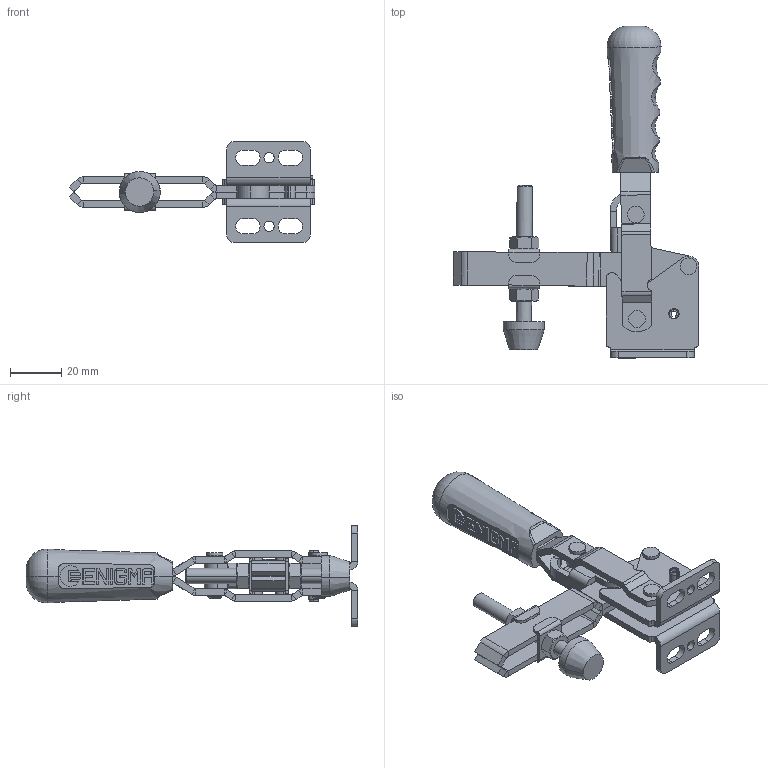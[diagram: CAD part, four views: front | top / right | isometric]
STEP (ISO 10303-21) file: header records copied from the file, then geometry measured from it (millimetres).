
FILE_DESCRIPTION (( 'STEP AP214' ), '1' );
FILE_NAME ('1102-Y.STEP', '2022-05-31T12:23:02', ( '' ), ( '' ), 'SwSTEP 2.0', 'SolidWorks 2020', '' );
FILE_SCHEMA (( 'AUTOMOTIVE_DESIGN' ));
Length unit declared in the file: millimetre
Products named in the file (18): 4x12_5_PERﾇﾝN; 1102 Y_GÖVDE_REV01_2022; C55_Yeni_Tutamak; Aynalama1102 BASKI KOLU_2022; M6 Aský; M6 Baský; 7x4x10_BURÇ; M6_BASKI_GRUBU^1102_Y_MONTAJ_REV01; Ø12,5xØ7,5x5_YÜZÜK; 4x20_YARIKLI_P嵱; 1102 MAFSAL_2022; 1102 BASKI KOLU_2022; 1102 HAREKET KOLU_2022; Aynalama1102 HAREKET KOLU_2022; M6 Somun; 1102-Y; 4x17_PERﾇﾝN; Aynalama1102 Y_GÖVDE_REV01_2022
Assembly tree (21 placements, depth 3):
  1102-Y
    1102 Y_GÖVDE_REV01_2022
    1102 BASKI KOLU_2022
    1102 HAREKET KOLU_2022
    Aynalama1102 Y_GÖVDE_REV01_2022
    1102 MAFSAL_2022
    4x12_5_PERﾇﾝN  x2
    4x17_PERﾇﾝN  x2
    7x4x10_BURÇ
    4x20_YARIKLI_P嵱
    Ø12,5xØ7,5x5_YÜZÜK
    M6_BASKI_GRUBU^1102_Y_MONTAJ_REV01
      M6 Aský  x2
      M6 Somun  x2
      M6 Baský
    Aynalama1102 HAREKET KOLU_2022
    Aynalama1102 BASKI KOLU_2022
    C55_Yeni_Tutamak
Bounding box: 95.5 x 129.19 x 39.29 mm (x, y, z)
Volume: 40111.3 mm3; surface area: 33352.8 mm2
Topology: 20 solids, 20 shells, 910 faces, 2209 edges, 1368 vertices
Faces by surface type: plane 573, cylinder 257, cone 36, torus 34, bspline 10
Entity records: 24198 total; most frequent: CARTESIAN_POINT 5426, DIRECTION 3815, ORIENTED_EDGE 3654, EDGE_CURVE 1827, AXIS2_PLACEMENT_3D 1299, VECTOR 1217, LINE 1217, VERTEX_POINT 1132
